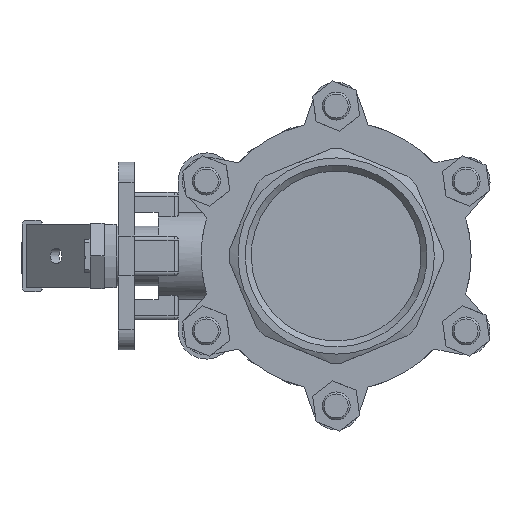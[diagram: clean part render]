
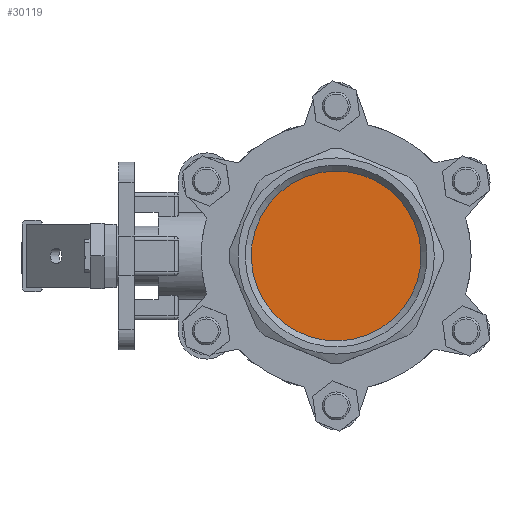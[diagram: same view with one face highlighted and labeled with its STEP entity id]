
A CAD part, left-side view. The second image highlights one B-rep face of the part: STEP entity #30119.
In plain terms, the highlighted planar face has unit normal (-1, 0, 0).
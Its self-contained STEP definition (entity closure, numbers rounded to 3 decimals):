
#28729=CARTESIAN_POINT('',(-63.0,16.25,39.231));
#28730=VERTEX_POINT('',#28729);
#28731=CARTESIAN_POINT('',(-63.0,0.,0.));
#28732=DIRECTION('',(1.0,0.0,0.0));
#28733=DIRECTION('',(0.0,-0.383,-0.924));
#28734=AXIS2_PLACEMENT_3D('',#28731,#28732,#28733);
#28735=CIRCLE('',#28734,42.464);
#28736=EDGE_CURVE('',#28730,#28730,#28735,.T.);
#30111=CARTESIAN_POINT('',(-63.0,0.,0.));
#30112=DIRECTION('',(1.0,0.0,0.0));
#30113=DIRECTION('',(0.0,0.0,-1.0));
#30114=AXIS2_PLACEMENT_3D('',#30111,#30112,#30113);
#30115=PLANE('',#30114);
#30116=ORIENTED_EDGE('',*,*,#28736,.F.);
#30117=EDGE_LOOP('',(#30116));
#30118=FACE_OUTER_BOUND('',#30117,.T.);
#30119=ADVANCED_FACE('',(#30118),#30115,.F.);
